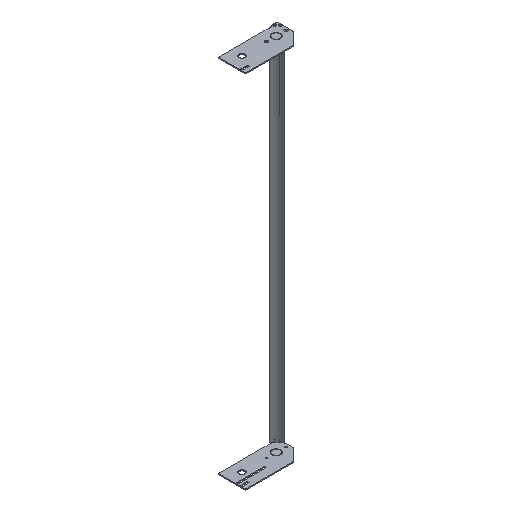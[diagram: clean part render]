
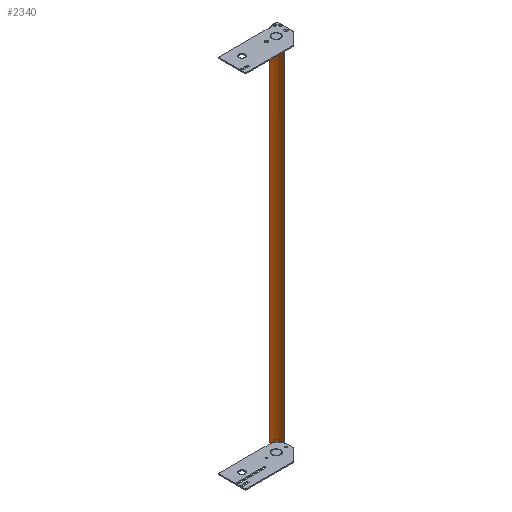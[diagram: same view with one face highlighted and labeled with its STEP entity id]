
A CAD part, isometric view. The second image highlights one B-rep face of the part: STEP entity #2340.
In plain terms, the highlighted cylindrical face has radius 40.64 mm (diameter 81.28 mm), a partial arc.
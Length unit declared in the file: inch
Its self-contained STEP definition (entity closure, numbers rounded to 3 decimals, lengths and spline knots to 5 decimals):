
#2002=CARTESIAN_POINT('',(-1.63,-1.52,-23.118));
#2003=DIRECTION('',(0.,0.,1.));
#2004=DIRECTION('',(0.946,0.325,0.));
#2005=AXIS2_PLACEMENT_3D('',#2002,#2003,#2004);
#2053=DIRECTION('',(0.,0.,1.));
#2054=VECTOR('',#2053,46.236);
#2055=CARTESIAN_POINT('',(-0.98126,-0.05742,-23.118));
#2056=LINE('',#2055,#2054);
#2072=CARTESIAN_POINT('',(-1.63,-1.52,23.118));
#2073=DIRECTION('',(0.,0.,-1.));
#2074=DIRECTION('',(0.405,0.914,0.));
#2075=AXIS2_PLACEMENT_3D('',#2072,#2073,#2074);
#2118=DIRECTION('',(0.,0.,1.));
#2119=VECTOR('',#2118,46.236);
#2120=CARTESIAN_POINT('',(-0.11675,-1.00032,-23.118));
#2121=LINE('',#2120,#2119);
#2139=CARTESIAN_POINT('',(-0.11675,-1.00032,-23.118));
#2141=VERTEX_POINT('',#2139);
#2166=CARTESIAN_POINT('',(-0.98126,-0.05742,-23.118));
#2168=VERTEX_POINT('',#2166);
#2172=CARTESIAN_POINT('',(-0.11675,-1.00032,23.118));
#2173=VERTEX_POINT('',#2172);
#2174=CARTESIAN_POINT('',(-0.98126,-0.05742,23.118));
#2175=VERTEX_POINT('',#2174);
#2329=CARTESIAN_POINT('',(-1.63,-1.52,23.118));
#2330=DIRECTION('',(0.,0.,-1.));
#2331=DIRECTION('',(-1.,0.,0.));
#2332=AXIS2_PLACEMENT_3D('',#2329,#2330,#2331);
#2333=CYLINDRICAL_SURFACE('',#2332,1.6);
#2334=ORIENTED_EDGE('',*,*,#2207,.T.);
#2335=ORIENTED_EDGE('',*,*,#2253,.T.);
#2336=ORIENTED_EDGE('',*,*,#2273,.T.);
#2337=ORIENTED_EDGE('',*,*,#2189,.F.);
#2338=EDGE_LOOP('',(#2334,#2335,#2336,#2337));
#2339=FACE_OUTER_BOUND('',#2338,.F.);
#2006=CIRCLE('',#2005,1.6);
#2076=CIRCLE('',#2075,1.6);
#2189=EDGE_CURVE('',#2141,#2173,#2121,.T.);
#2207=EDGE_CURVE('',#2141,#2168,#2006,.T.);
#2253=EDGE_CURVE('',#2168,#2175,#2056,.T.);
#2273=EDGE_CURVE('',#2175,#2173,#2076,.T.);
#2340=ADVANCED_FACE('',(#2339),#2333,.F.);
